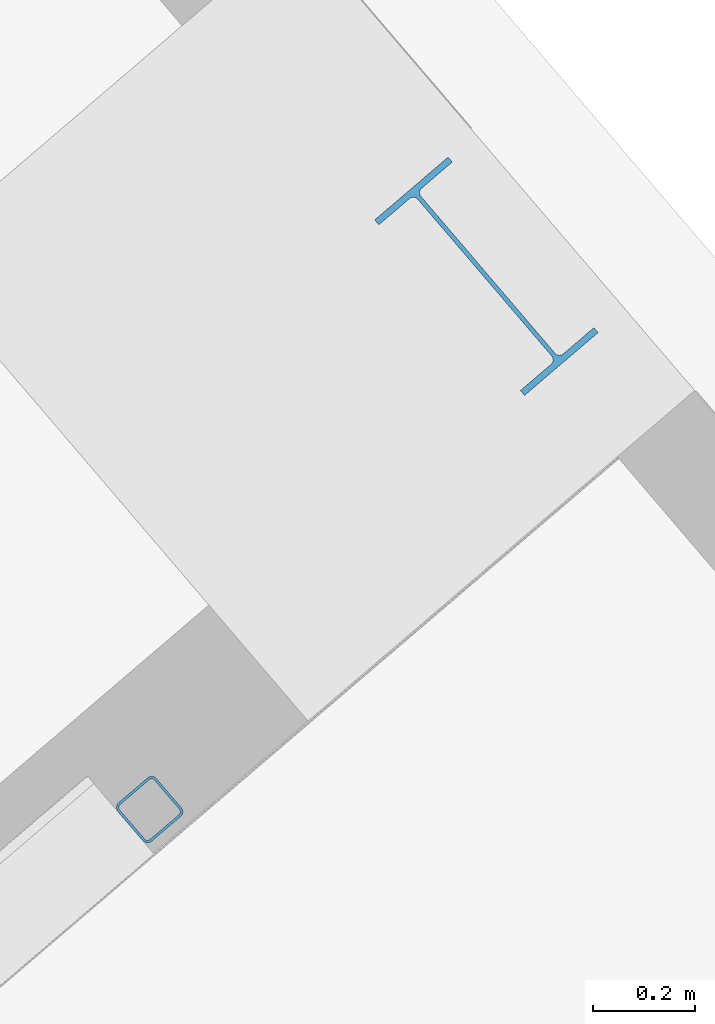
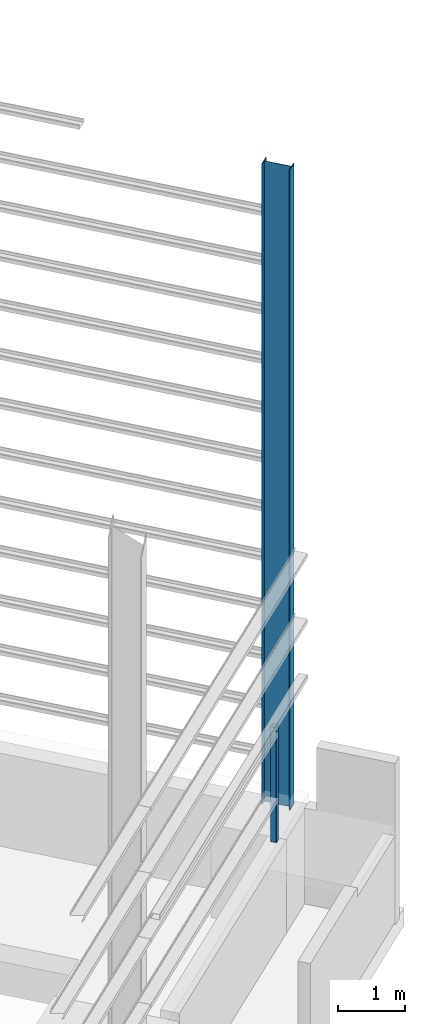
# One storey, part 9 of 41: 2 columns.
"""IFC2X3 building model written with IfcOpenShell, lengths in millimetres."""

from ifc_helpers import new_model, entity, si_unit, converted_unit, derived_unit, direction, frame, frame_2d, origin, origin_2d, place, context, subcontext, project, spatial, polyline, circle_curve, parameter, trimmed, segment, composite_curve, i_section, outline, extrude, source, transform, mapped, material, type_object, type_shapes, element, save


model = new_model("IFC2X3")

# Units and contexts
model_context = context("Model", 3, precision=0.01, world=origin(), true_north=direction((6.123031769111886e-17, 1.0)))
body_context = subcontext(model_context, "Body", "Model", "MODEL_VIEW")
ifc_project = project(units=[si_unit("LENGTHUNIT", "METRE", prefix="MILLI"), si_unit("AREAUNIT", "SQUARE_METRE"), si_unit("VOLUMEUNIT", "CUBIC_METRE"), converted_unit("PLANEANGLEUNIT", "DEGREE", entity("IfcRatioMeasure", 0.017453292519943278), si_unit("PLANEANGLEUNIT", "RADIAN"), dimensions=[0, 0, 0, 0, 0, 0, 0]), si_unit("MASSUNIT", "GRAM", prefix="KILO"), derived_unit("MASSDENSITYUNIT", [(si_unit("MASSUNIT", "GRAM", prefix="KILO"), 1), (si_unit("LENGTHUNIT", "METRE"), -3)]), derived_unit("MOMENTOFINERTIAUNIT", [(si_unit("LENGTHUNIT", "METRE"), 4)]), si_unit("TIMEUNIT", "SECOND"), si_unit("FREQUENCYUNIT", "HERTZ"), si_unit("THERMODYNAMICTEMPERATUREUNIT", "DEGREE_CELSIUS"), derived_unit("THERMALTRANSMITTANCEUNIT", [(si_unit("MASSUNIT", "GRAM", prefix="KILO"), 1), (si_unit("THERMODYNAMICTEMPERATUREUNIT", "KELVIN"), -1), (si_unit("TIMEUNIT", "SECOND"), -3)]), derived_unit("VOLUMETRICFLOWRATEUNIT", [(si_unit("LENGTHUNIT", "METRE"), 3), (si_unit("TIMEUNIT", "SECOND"), -1)]), derived_unit("MASSFLOWRATEUNIT", [(si_unit("MASSUNIT", "GRAM", prefix="KILO"), 1), (si_unit("TIMEUNIT", "SECOND"), -1)]), derived_unit("ROTATIONALFREQUENCYUNIT", [(si_unit("TIMEUNIT", "SECOND"), -1)]), si_unit("ELECTRICCURRENTUNIT", "AMPERE"), si_unit("ELECTRICVOLTAGEUNIT", "VOLT"), si_unit("POWERUNIT", "WATT"), si_unit("FORCEUNIT", "NEWTON", prefix="KILO"), si_unit("ILLUMINANCEUNIT", "LUX"), si_unit("LUMINOUSFLUXUNIT", "LUMEN"), si_unit("LUMINOUSINTENSITYUNIT", "CANDELA"), derived_unit("USERDEFINED", [(si_unit("MASSUNIT", "GRAM", prefix="KILO"), -1), (si_unit("LENGTHUNIT", "METRE"), -2), (si_unit("TIMEUNIT", "SECOND"), 3), (si_unit("LUMINOUSFLUXUNIT", "LUMEN"), 1)]), derived_unit("SOUNDPOWERUNIT", [(si_unit("MASSUNIT", "GRAM", prefix="KILO"), 1), (si_unit("LENGTHUNIT", "METRE"), 2), (si_unit("TIMEUNIT", "SECOND"), -3)]), derived_unit("LINEARVELOCITYUNIT", [(si_unit("LENGTHUNIT", "METRE"), 1), (si_unit("TIMEUNIT", "SECOND"), -1)]), si_unit("PRESSUREUNIT", "PASCAL"), derived_unit("USERDEFINED", [(si_unit("LENGTHUNIT", "METRE"), -2), (si_unit("MASSUNIT", "GRAM", prefix="KILO"), 1), (si_unit("TIMEUNIT", "SECOND"), -2)]), derived_unit("LINEARFORCEUNIT", [(si_unit("MASSUNIT", "GRAM", prefix="KILO"), 1), (si_unit("LENGTHUNIT", "METRE"), 1), (si_unit("TIMEUNIT", "SECOND"), -2), (si_unit("LENGTHUNIT", "METRE"), -1)]), derived_unit("PLANARFORCEUNIT", [(si_unit("MASSUNIT", "GRAM", prefix="KILO"), 1), (si_unit("LENGTHUNIT", "METRE"), 1), (si_unit("TIMEUNIT", "SECOND"), -2), (si_unit("LENGTHUNIT", "METRE"), -2)])], contexts=[model_context])

# Site, building, storey
site_placement = place(None, frame((962.4174930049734, -6014.433753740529, 0.0), z_axis=(0.0, 0.0, 1.0), x_axis=(0.7601792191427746, 0.649713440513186, 0.0)))
site = spatial("IfcSite", under=ifc_project, at=site_placement, Name="Default", CompositionType="ELEMENT")
building_placement = place(site_placement, origin())
building = spatial("IfcBuilding", under=site, at=building_placement, CompositionType="ELEMENT")
storey_placement = place(building_placement, origin())
storey = spatial("IfcBuildingStorey", under=building, at=storey_placement, Name="Datum", CompositionType="ELEMENT", Elevation=0.0)

# Columns
ifc_material = material(Name="Metal - Steel - 300 MPa")
column_type_1 = type_object("IfcColumnType", Name="ADSK_AU_SHS-Square Hollow Sections-Column (AS 1163_C350):100x100x5.0SHS", PredefinedType="COLUMN", material=ifc_material)
shared_shape = source(origin(), body_context, "Body", "SweptSolid", [
    extrude(outline(composite_curve([segment(polyline([(-37.50000000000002, -50.0), (37.50000000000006, -50.0)]), True, "CONTINUOUS"), segment(trimmed(circle_curve(frame_2d((37.49999999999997, -37.50000000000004), x_axis=(-1.0, 0.0)), 12.499999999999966), [parameter(90.00000000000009)], [parameter(180.00000000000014)], True, "PARAMETER"), True, "CONTINUOUS"), segment(polyline([(50.0, -37.500000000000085), (50.0, 37.50000000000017)]), True, "CONTINUOUS"), segment(trimmed(circle_curve(frame_2d((37.49999999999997, 37.50000000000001), x_axis=(-1.0, 0.0)), 12.499999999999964), [parameter(180.00000000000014)], [parameter(269.9999999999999)], True, "PARAMETER"), True, "CONTINUOUS"), segment(polyline([(37.49999999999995, 50.0), (-37.5, 50.0)]), True, "CONTINUOUS"), segment(trimmed(circle_curve(frame_2d((-37.5, 37.5), x_axis=(-1.0, 0.0)), 12.499999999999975), [parameter(269.99999999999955)], [parameter(359.9999999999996)], True, "PARAMETER"), True, "CONTINUOUS"), segment(polyline([(-50.0, 37.5), (-50.0, -37.50000000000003)]), True, "CONTINUOUS"), segment(trimmed(circle_curve(frame_2d((-37.5, -37.50000000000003), x_axis=(-1.0, 0.0)), 12.499999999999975), [parameter(359.99999999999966)], [parameter(89.99999999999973)], True, "PARAMETER"), True, "CONTINUOUS")], self_intersect=False), holes=[composite_curve([segment(trimmed(circle_curve(frame_2d((-37.5, -37.500000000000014), x_axis=(-1.0, 0.0)), 7.500000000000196), [parameter(359.9999999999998)], [parameter(89.99999999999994)], True, "PARAMETER"), False, "CONTINUOUS"), segment(polyline([(-45.0, -37.49999999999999), (-45.0, 37.499999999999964)]), True, "CONTINUOUS"), segment(trimmed(circle_curve(frame_2d((-37.5, 37.49999999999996), x_axis=(-1.0, 0.0)), 7.499999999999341), [parameter(270.00000000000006)], [parameter(359.9999999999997)], True, "PARAMETER"), False, "CONTINUOUS"), segment(polyline([(-37.50000000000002, 45.0), (37.500000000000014, 45.0)]), True, "CONTINUOUS"), segment(trimmed(circle_curve(frame_2d((37.49999999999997, 37.49999999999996), x_axis=(-1.0, 0.0)), 7.499999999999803), [parameter(180.0000000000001)], [parameter(270.00000000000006)], True, "PARAMETER"), False, "CONTINUOUS"), segment(polyline([(45.0, 37.5), (45.0, -37.50000000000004)]), True, "CONTINUOUS"), segment(trimmed(circle_curve(frame_2d((37.49999999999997, -37.500000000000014), x_axis=(-1.0, 0.0)), 7.500000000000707), [parameter(90.00000000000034)], [parameter(180.0000000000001)], True, "PARAMETER"), False, "CONTINUOUS"), segment(polyline([(37.50000000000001, -45.0), (-37.50000000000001, -45.0)]), True, "CONTINUOUS")], self_intersect=False)]), frame((0.0, 0.0, 0.0), z_axis=(0.0, 0.0, 1.0), x_axis=(-1.0, 0.0, 0.0)), (0.0, 0.0, 1.0), 2100.0),
])
type_shapes(column_type_1, [shared_shape])
column_1_placement = place(building_placement, frame((184599.6602047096, -26253.428082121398, 0.0)))
element("IfcColumn", 1, at=column_1_placement, inside=storey, type_object=column_type_1, material=ifc_material, Name="ADSK_AU_SHS-Square Hollow Sections-Column (AS 1163_C350):100x100x5.0SHS", ObjectType="ADSK_AU_SHS-Square Hollow Sections-Column (AS 1163_C350):100x100x5.0SHS", context=body_context, shape_type="MappedRepresentation", body=[
    mapped(shared_shape, transform((0.0, 0.0, 0.0), scale=1.0)),
])
column_type_2 = type_object("IfcColumnType", Name="ADSK_AU_UB-Universal Beams-Column (AS 3679_1):460UB67.1", PredefinedType="COLUMN", material=ifc_material)
column_2_placement = place(building_placement, frame((185784.26020471, -25886.528082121, 11505.0)))
element("IfcColumn", 2, at=column_2_placement, inside=storey, type_object=column_type_2, material=ifc_material, Name="ADSK_AU_UB-Universal Beams-Column (AS 3679_1):460UB67.1", ObjectType="460UB67.1", context=model_context, shape_type="SweptSolid", body=[
    extrude(i_section(OverallWidth=190.0, OverallDepth=453.8, WebThickness=8.5, FlangeThickness=12.7, FilletRadius=11.4, at=origin_2d()), origin(), (0.0, 0.0, -1.0), 11705.0),
])

save(model, "model.ifc")
